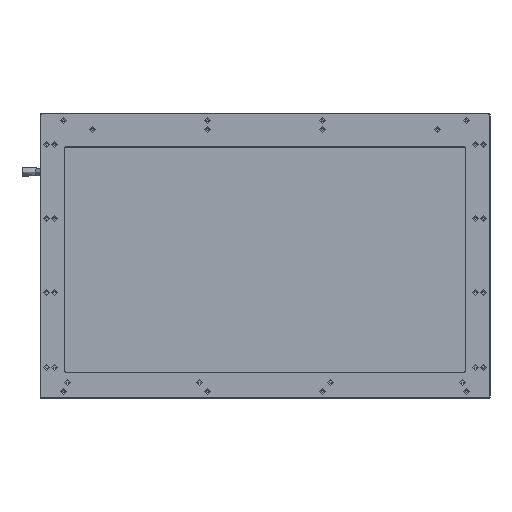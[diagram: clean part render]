
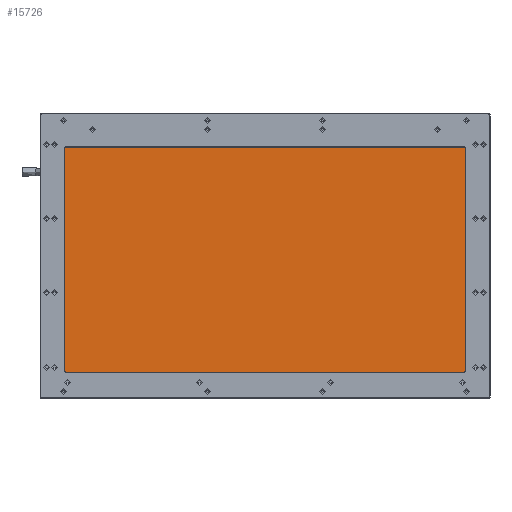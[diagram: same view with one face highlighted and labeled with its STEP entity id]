
A CAD part, top view. The second image highlights one B-rep face of the part: STEP entity #15726.
In plain terms, the highlighted planar face has unit normal (0, 0, 1).
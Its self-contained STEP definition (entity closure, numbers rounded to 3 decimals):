
#1194 = EDGE_LOOP ( 'NONE', ( #2876, #56095, #2021, #12812 ) ) ;
#2021 = ORIENTED_EDGE ( 'NONE', *, *, #21581, .T. ) ;
#2876 = ORIENTED_EDGE ( 'NONE', *, *, #33521, .T. ) ;
#3999 = CARTESIAN_POINT ( 'NONE',  ( 146.88, 79.9, 62.4 ) ) ;
#5969 = CARTESIAN_POINT ( 'NONE',  ( -146.88, 79.9, 62.4 ) ) ;
#6182 = DIRECTION ( 'NONE',  ( 0., 1., 0. ) ) ;
#7269 = VECTOR ( 'NONE', #8729, 1000. ) ;
#8572 = VERTEX_POINT ( 'NONE', #61195 ) ;
#8729 = DIRECTION ( 'NONE',  ( -1., 0., 0. ) ) ;
#9428 = LINE ( 'NONE', #23553, #63024 ) ;
#11275 = DIRECTION ( 'NONE',  ( 0., 0., 1. ) ) ;
#12812 = ORIENTED_EDGE ( 'NONE', *, *, #63456, .T. ) ;
#15726 = ADVANCED_FACE ( 'NONE', ( #58027 ), #36811, .T. ) ;
#16347 = CARTESIAN_POINT ( 'NONE',  ( 146.88, -85.34, 62.4 ) ) ;
#16460 = DIRECTION ( 'NONE',  ( 1., 0., 0. ) ) ;
#17943 = LINE ( 'NONE', #16347, #21147 ) ;
#18574 = CARTESIAN_POINT ( 'NONE',  ( 146.88, -85.34, 62.4 ) ) ;
#19109 = CARTESIAN_POINT ( 'NONE',  ( 146.88, 79.9, 62.4 ) ) ;
#20980 = LINE ( 'NONE', #19109, #7269 ) ;
#21147 = VECTOR ( 'NONE', #6182, 1000. ) ;
#21581 = EDGE_CURVE ( 'NONE', #52666, #8572, #9428, .T. ) ;
#22275 = AXIS2_PLACEMENT_3D ( 'NONE', #47315, #11275, #16460 ) ;
#23553 = CARTESIAN_POINT ( 'NONE',  ( -146.88, -85.34, 62.4 ) ) ;
#31163 = CARTESIAN_POINT ( 'NONE',  ( 146.88, -85.34, 62.4 ) ) ;
#33521 = EDGE_CURVE ( 'NONE', #49457, #55852, #17943, .T. ) ;
#33774 = DIRECTION ( 'NONE',  ( 0., -1., 0. ) ) ;
#35760 = VECTOR ( 'NONE', #60152, 1000. ) ;
#36811 = PLANE ( 'NONE',  #22275 ) ;
#37402 = LINE ( 'NONE', #18574, #35760 ) ;
#47315 = CARTESIAN_POINT ( 'NONE',  ( 0., 0., 62.4 ) ) ;
#49457 = VERTEX_POINT ( 'NONE', #31163 ) ;
#52363 = EDGE_CURVE ( 'NONE', #55852, #52666, #20980, .T. ) ;
#52666 = VERTEX_POINT ( 'NONE', #5969 ) ;
#55852 = VERTEX_POINT ( 'NONE', #3999 ) ;
#56095 = ORIENTED_EDGE ( 'NONE', *, *, #52363, .T. ) ;
#58027 = FACE_OUTER_BOUND ( 'NONE', #1194, .T. ) ;
#60152 = DIRECTION ( 'NONE',  ( 1., 0., 0. ) ) ;
#61195 = CARTESIAN_POINT ( 'NONE',  ( -146.88, -85.34, 62.4 ) ) ;
#63024 = VECTOR ( 'NONE', #33774, 1000. ) ;
#63456 = EDGE_CURVE ( 'NONE', #8572, #49457, #37402, .T. ) ;
